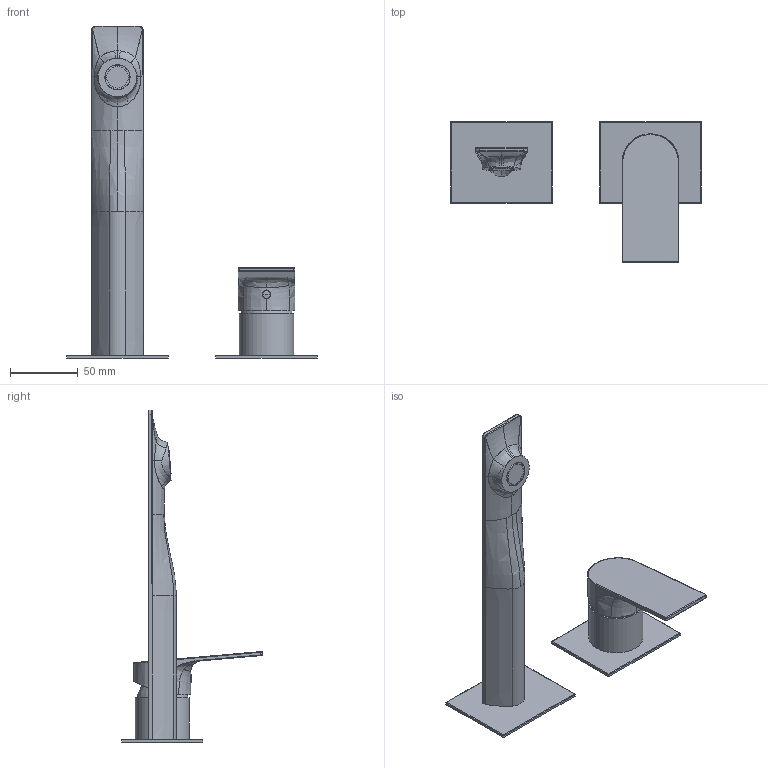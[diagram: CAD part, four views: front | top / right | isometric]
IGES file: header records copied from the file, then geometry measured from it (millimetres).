
Start section:  PTC IGES file: 78547_sw0001.igs
Global section: file name: 78547_sw0001.igs; native system: Creo Parametric by PTC Inc.; preprocessor: 2018100; author: volponeff; organization: Unknown; date: 20200922.112936; units: millimetre
Bounding box: 185 x 103.79 x 245 mm (x, y, z)
Surface area: 62057.5 mm2 (no closed solid volume)
Topology: 0 solids, 0 shells, 249 faces, 1202 edges, 1198 vertices
Faces by surface type: bspline 139, revolution 104, extrusion 6
